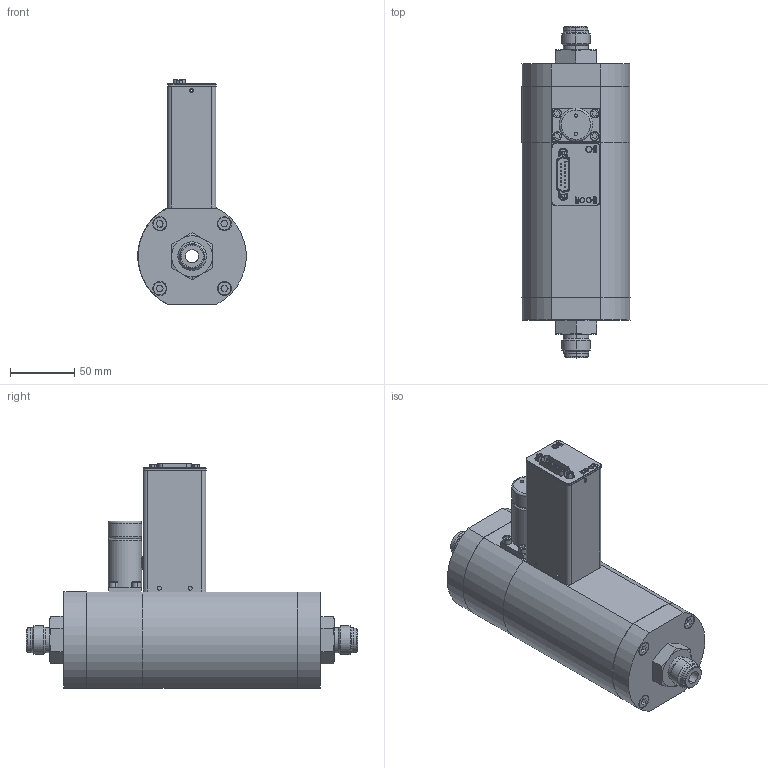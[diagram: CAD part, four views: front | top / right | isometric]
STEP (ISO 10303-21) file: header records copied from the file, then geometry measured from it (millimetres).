
FILE_DESCRIPTION (( 'STEP AP203' ), '1' );
FILE_NAME ('SLA5853-S-2M-2-C-REVB.STEP', '2017-10-03T14:38:18', ( 'mrutkowski' ), ( 'Hewlett-Packard Company' ), 'SwSTEP 2.0', 'SolidWorks 2017', '' );
FILE_SCHEMA (( 'CONFIG_CONTROL_DESIGN' ));
Length unit declared in the file: inch
Products named in the file (1): SLA5853-S-2M-2-C-REVB
Bounding box: 83.91 x 257.73 x 174.47 mm (x, y, z)
Surface area: 125046.5 mm2 (no closed solid volume)
Topology: 0 solids, 42 shells, 581 faces, 1944 edges, 1374 vertices
Faces by surface type: plane 240, cylinder 166, cone 116, bspline 59
Entity records: 24019 total; most frequent: CARTESIAN_POINT 7526, DIRECTION 3383, ORIENTED_EDGE 3063, EDGE_CURVE 1944, VERTEX_POINT 1374, AXIS2_PLACEMENT_3D 1241, LINE 901, VECTOR 901
